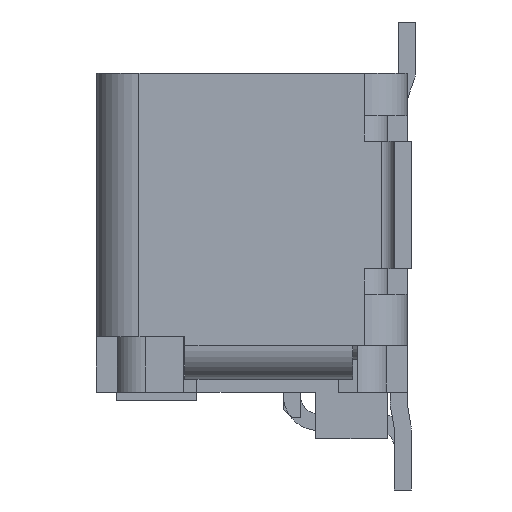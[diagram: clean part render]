
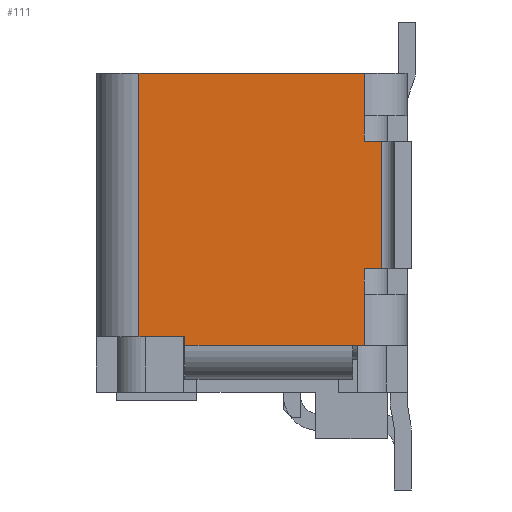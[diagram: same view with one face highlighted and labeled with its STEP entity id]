
A CAD part, left-side view. The second image highlights one B-rep face of the part: STEP entity #111.
In plain terms, the highlighted planar face has unit normal (-1, 0, 0).
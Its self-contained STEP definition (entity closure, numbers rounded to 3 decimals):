
#111=ADVANCED_FACE('NONE',(#1776),#1777,.T.);
#1776=FACE_OUTER_BOUND('',#4831,.T.);
#1777=PLANE('',#4832);
#4831=EDGE_LOOP('',(#9038,#9039,#9040,#9041,#9042,#9043,#9044,#9045,#9046,#9047,#9048,#9049,#9050));
#4832=AXIS2_PLACEMENT_3D('',#9051,#9052,#9053);
#9038=ORIENTED_EDGE('',*,*,#21248,.F.);
#9039=ORIENTED_EDGE('',*,*,#21061,.F.);
#9040=ORIENTED_EDGE('',*,*,#21249,.T.);
#9041=ORIENTED_EDGE('',*,*,#20349,.F.);
#9042=ORIENTED_EDGE('',*,*,#21250,.F.);
#9043=ORIENTED_EDGE('',*,*,#21251,.F.);
#9044=ORIENTED_EDGE('',*,*,#21252,.F.);
#9045=ORIENTED_EDGE('',*,*,#21253,.F.);
#9046=ORIENTED_EDGE('',*,*,#21254,.F.);
#9047=ORIENTED_EDGE('',*,*,#21255,.T.);
#9048=ORIENTED_EDGE('',*,*,#21256,.F.);
#9049=ORIENTED_EDGE('',*,*,#21257,.F.);
#9050=ORIENTED_EDGE('',*,*,#21258,.F.);
#9051=CARTESIAN_POINT('',(-17.675,3.22,-1.5));
#9052=DIRECTION('',(-1.0,0.0,0.0));
#9053=DIRECTION('',(0.0,0.0,1.0));
#20349=EDGE_CURVE('NONE',#24644,#24646,#24647,.T.);
#21061=EDGE_CURVE('NONE',#26051,#26053,#26054,.T.);
#21248=EDGE_CURVE('NONE',#26053,#26386,#26387,.T.);
#21249=EDGE_CURVE('NONE',#26051,#24646,#26388,.T.);
#21250=EDGE_CURVE('NONE',#26389,#24644,#26390,.T.);
#21251=EDGE_CURVE('NONE',#26391,#26389,#26392,.T.);
#21252=EDGE_CURVE('NONE',#26393,#26391,#26394,.T.);
#21253=EDGE_CURVE('NONE',#26395,#26393,#26396,.T.);
#21254=EDGE_CURVE('NONE',#26397,#26395,#26398,.T.);
#21255=EDGE_CURVE('NONE',#26397,#26399,#26400,.T.);
#21256=EDGE_CURVE('NONE',#26401,#26399,#26402,.T.);
#21257=EDGE_CURVE('NONE',#26403,#26401,#26404,.T.);
#21258=EDGE_CURVE('NONE',#26386,#26403,#26405,.T.);
#24644=VERTEX_POINT('NONE',#31852);
#24646=VERTEX_POINT('NONE',#31855);
#24647=LINE('',#31856,#31857);
#26051=VERTEX_POINT('NONE',#33964);
#26053=VERTEX_POINT('NONE',#33966);
#26054=LINE('',#33967,#33968);
#26386=VERTEX_POINT('NONE',#34461);
#26387=LINE('',#34462,#34463);
#26388=LINE('',#34464,#34465);
#26389=VERTEX_POINT('NONE',#34466);
#26390=LINE('',#34467,#34468);
#26391=VERTEX_POINT('NONE',#34469);
#26392=LINE('',#34470,#34471);
#26393=VERTEX_POINT('NONE',#34472);
#26394=LINE('',#34473,#34474);
#26395=VERTEX_POINT('NONE',#34475);
#26396=LINE('',#34476,#34477);
#26397=VERTEX_POINT('NONE',#34478);
#26398=LINE('',#34479,#34480);
#26399=VERTEX_POINT('NONE',#34481);
#26400=LINE('',#34482,#34483);
#26401=VERTEX_POINT('NONE',#34484);
#26402=LINE('',#34485,#34486);
#26403=VERTEX_POINT('NONE',#34487);
#26404=LINE('',#34488,#34489);
#26405=LINE('',#34490,#34491);
#31852=CARTESIAN_POINT('',(-17.675,2.18,-0.85));
#31855=CARTESIAN_POINT('',(-17.675,2.72,-0.85));
#31856=CARTESIAN_POINT('',(-17.675,-0.48,-0.85));
#31857=VECTOR('',#41823,1000.0);
#33964=CARTESIAN_POINT('',(-17.675,2.72,2.25));
#33966=CARTESIAN_POINT('',(-17.675,0.07,2.25));
#33967=CARTESIAN_POINT('',(-17.675,3.22,2.25));
#33968=VECTOR('',#42551,1000.0);
#34461=CARTESIAN_POINT('',(-17.675,0.07,1.75));
#34462=CARTESIAN_POINT('',(-17.675,0.07,2.25));
#34463=VECTOR('',#42788,1000.0);
#34464=CARTESIAN_POINT('',(-17.675,2.72,-1.5));
#34465=VECTOR('',#42789,1000.0);
#34466=CARTESIAN_POINT('',(-17.675,2.18,-0.95));
#34467=CARTESIAN_POINT('',(-17.675,2.18,-0.85));
#34468=VECTOR('',#42790,1000.0);
#34469=CARTESIAN_POINT('',(-17.675,0.21,-0.95));
#34470=CARTESIAN_POINT('',(-17.675,-3.262,-0.95));
#34471=VECTOR('',#42791,1000.0);
#34472=CARTESIAN_POINT('',(-17.675,0.07,-0.95));
#34473=CARTESIAN_POINT('',(-17.675,0.07,-0.95));
#34474=VECTOR('',#42792,1000.0);
#34475=CARTESIAN_POINT('',(-17.675,0.07,-0.35));
#34476=CARTESIAN_POINT('',(-17.675,0.07,2.25));
#34477=VECTOR('',#42793,1000.0);
#34478=CARTESIAN_POINT('',(-17.675,0.07,-0.05));
#34479=CARTESIAN_POINT('',(-17.675,0.07,1.75));
#34480=VECTOR('',#42794,1000.0);
#34481=CARTESIAN_POINT('',(-17.675,-0.13,-0.05));
#34482=CARTESIAN_POINT('',(-17.675,0.07,-0.05));
#34483=VECTOR('',#42795,1000.0);
#34484=CARTESIAN_POINT('',(-17.675,-0.13,1.45));
#34485=CARTESIAN_POINT('',(-17.675,-0.13,1.45));
#34486=VECTOR('',#42796,1000.0);
#34487=CARTESIAN_POINT('',(-17.675,0.07,1.45));
#34488=CARTESIAN_POINT('',(-17.675,0.07,1.45));
#34489=VECTOR('',#42797,1000.0);
#34490=CARTESIAN_POINT('',(-17.675,0.07,1.75));
#34491=VECTOR('',#42798,1000.0);
#41823=DIRECTION('',(0.0,1.0,0.0));
#42551=DIRECTION('',(0.0,-1.0,0.0));
#42788=DIRECTION('',(0.0,0.0,-1.0));
#42789=DIRECTION('',(-0.0,-0.0,-1.0));
#42790=DIRECTION('',(0.0,0.0,1.0));
#42791=DIRECTION('',(0.0,1.0,0.0));
#42792=DIRECTION('',(0.0,1.0,0.0));
#42793=DIRECTION('',(0.0,0.0,-1.0));
#42794=DIRECTION('',(0.0,0.0,-1.0));
#42795=DIRECTION('',(0.,-1.0,0.0));
#42796=DIRECTION('',(0.0,0.0,-1.0));
#42797=DIRECTION('',(0.,-1.0,0.0));
#42798=DIRECTION('',(0.0,0.0,-1.0));
